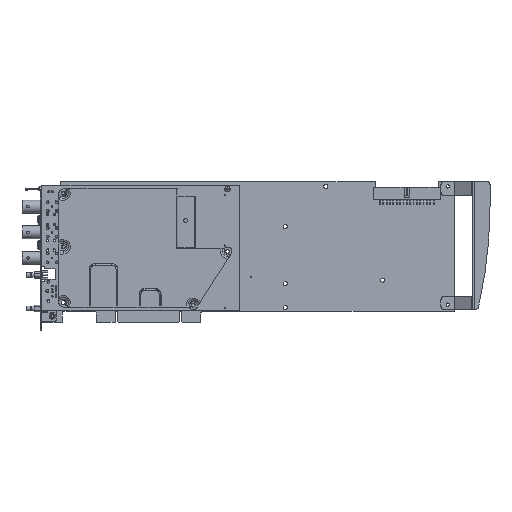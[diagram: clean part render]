
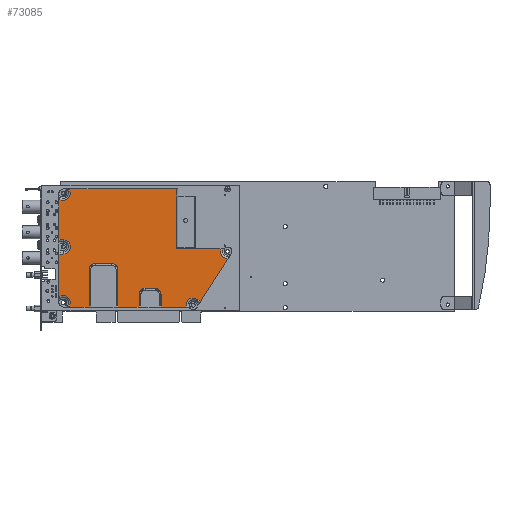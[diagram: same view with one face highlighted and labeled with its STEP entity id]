
A CAD part, top view. The second image highlights one B-rep face of the part: STEP entity #73085.
In plain terms, the highlighted planar face has unit normal (0, 0, 1).
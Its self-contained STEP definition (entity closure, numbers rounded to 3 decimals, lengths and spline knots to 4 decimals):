
#69874=CARTESIAN_POINT('',(-4.7346,-1.656,0.611));
#69881=CARTESIAN_POINT('',(-5.03,-1.357,0.611));
#69942=CARTESIAN_POINT('',(-4.9,-1.524,0.611));
#69943=DIRECTION('',(0.,0.,1.));
#69944=DIRECTION('',(0.782,-0.624,0.));
#69945=AXIS2_PLACEMENT_3D('',#69942,#69943,#69944);
#69947=DIRECTION('',(0.,-1.,0.));
#69948=VECTOR('',#69947,1.2701);
#69949=CARTESIAN_POINT('',(-5.03,-0.0868,0.611));
#69950=LINE('',#69949,#69948);
#69951=DIRECTION('',(0.996,0.087,0.));
#69952=VECTOR('',#69951,0.149);
#69953=CARTESIAN_POINT('',(-5.03,-0.0868,0.611));
#69954=LINE('',#69953,#69952);
#69955=CARTESIAN_POINT('',(-4.9,0.137,0.611));
#69956=DIRECTION('',(0.,0.,1.));
#69957=DIRECTION('',(0.087,-0.996,0.));
#69958=AXIS2_PLACEMENT_3D('',#69955,#69956,#69957);
#69960=DIRECTION('',(-0.996,0.087,0.));
#69961=VECTOR('',#69960,0.149);
#69962=CARTESIAN_POINT('',(-4.8816,0.3478,0.611));
#69963=LINE('',#69962,#69961);
#69964=DIRECTION('',(0.,-1.,0.));
#69965=VECTOR('',#69964,1.2071);
#69966=CARTESIAN_POINT('',(-5.03,1.568,0.611));
#69967=LINE('',#69966,#69965);
#69968=CARTESIAN_POINT('',(-4.9,1.735,0.611));
#69969=DIRECTION('',(0.,0.,1.));
#69970=DIRECTION('',(-0.614,-0.789,0.));
#69971=AXIS2_PLACEMENT_3D('',#69968,#69969,#69970);
#69973=DIRECTION('',(-1.,0.,0.));
#69974=VECTOR('',#69973,3.218);
#69975=CARTESIAN_POINT('',(-1.515,1.865,0.611));
#69976=LINE('',#69975,#69974);
#69977=DIRECTION('',(0.,1.,0.));
#69978=VECTOR('',#69977,0.04);
#69979=CARTESIAN_POINT('',(-1.515,0.083,0.611));
#69980=LINE('',#69979,#69978);
#69981=CARTESIAN_POINT('',(0.,0.,0.611));
#69982=DIRECTION('',(0.,0.,1.));
#69983=DIRECTION('',(-0.92,0.392,0.));
#69984=AXIS2_PLACEMENT_3D('',#69981,#69982,#69983);
#69986=DIRECTION('',(-0.54,-0.842,0.));
#69987=VECTOR('',#69986,1.5364);
#69988=CARTESIAN_POINT('',(0.0193,-0.2108,0.611));
#69989=LINE('',#69988,#69987);
#69990=DIRECTION('',(-0.766,0.643,0.));
#69991=VECTOR('',#69990,0.1034);
#69992=CARTESIAN_POINT('',(-0.8098,-1.5043,0.611));
#69993=LINE('',#69992,#69991);
#69994=CARTESIAN_POINT('',(-1.025,-1.6,0.611));
#69995=DIRECTION('',(0.,0.,1.));
#69996=DIRECTION('',(0.643,0.766,0.));
#69997=AXIS2_PLACEMENT_3D('',#69994,#69995,#69996);
#69999=DIRECTION('',(1.,0.,0.));
#70000=VECTOR('',#69999,0.2435);
#70001=CARTESIAN_POINT('',(-1.4726,-1.656,0.611));
#70002=LINE('',#70001,#70000);
#70003=DIRECTION('',(1.,0.,0.));
#70004=VECTOR('',#70003,0.5094);
#70005=CARTESIAN_POINT('',(-1.982,-1.656,0.611));
#70006=LINE('',#70005,#70004);
#70007=DIRECTION('',(0.,1.,0.));
#70008=VECTOR('',#70007,0.375);
#70009=CARTESIAN_POINT('',(-1.982,-1.656,0.611));
#70010=LINE('',#70009,#70008);
#70011=CARTESIAN_POINT('',(-2.161,-1.281,0.611));
#70012=DIRECTION('',(0.,0.,1.));
#70013=DIRECTION('',(1.,0.,0.));
#70014=AXIS2_PLACEMENT_3D('',#70011,#70012,#70013);
#70016=DIRECTION('',(1.,0.,0.));
#70017=VECTOR('',#70016,0.3);
#70018=CARTESIAN_POINT('',(-2.461,-1.102,0.611));
#70019=LINE('',#70018,#70017);
#70020=CARTESIAN_POINT('',(-2.461,-1.281,0.611));
#70021=DIRECTION('',(0.,0.,-1.));
#70022=DIRECTION('',(-1.,0.,0.));
#70023=AXIS2_PLACEMENT_3D('',#70020,#70021,#70022);
#70025=DIRECTION('',(0.,-1.,0.));
#70026=VECTOR('',#70025,0.375);
#70027=CARTESIAN_POINT('',(-2.64,-1.281,0.611));
#70028=LINE('',#70027,#70026);
#70029=DIRECTION('',(1.,0.,0.));
#70030=VECTOR('',#70029,0.632);
#70031=CARTESIAN_POINT('',(-3.272,-1.656,0.611));
#70032=LINE('',#70031,#70030);
#70033=DIRECTION('',(0.,1.,0.));
#70034=VECTOR('',#70033,1.125);
#70035=CARTESIAN_POINT('',(-3.272,-1.656,0.611));
#70036=LINE('',#70035,#70034);
#70037=CARTESIAN_POINT('',(-3.451,-0.531,0.611));
#70038=DIRECTION('',(0.,0.,-1.));
#70039=DIRECTION('',(0.,1.,0.));
#70040=AXIS2_PLACEMENT_3D('',#70037,#70038,#70039);
#70042=DIRECTION('',(1.,0.,0.));
#70043=VECTOR('',#70042,0.5);
#70044=CARTESIAN_POINT('',(-3.951,-0.352,0.611));
#70045=LINE('',#70044,#70043);
#70046=CARTESIAN_POINT('',(-3.951,-0.531,0.611));
#70047=DIRECTION('',(0.,0.,-1.));
#70048=DIRECTION('',(-1.,0.,0.));
#70049=AXIS2_PLACEMENT_3D('',#70046,#70047,#70048);
#70051=DIRECTION('',(0.,1.,0.));
#70052=VECTOR('',#70051,1.125);
#70053=CARTESIAN_POINT('',(-4.13,-1.656,0.611));
#70054=LINE('',#70053,#70052);
#70055=DIRECTION('',(1.,0.,0.));
#70056=VECTOR('',#70055,0.6046);
#70057=CARTESIAN_POINT('',(-4.7346,-1.656,0.611));
#70058=LINE('',#70057,#70056);
#70539=CARTESIAN_POINT('',(-5.03,1.568,0.611));
#70546=CARTESIAN_POINT('',(-4.733,1.865,0.611));
#70672=DIRECTION('',(0.,-1.,0.));
#70673=VECTOR('',#70672,1.742);
#70674=CARTESIAN_POINT('',(-1.515,1.865,0.611));
#70675=LINE('',#70674,#70673);
#70897=DIRECTION('',(-1.,0.,0.));
#70898=VECTOR('',#70897,1.3203);
#70899=CARTESIAN_POINT('',(-0.1947,0.083,0.611));
#70900=LINE('',#70899,#70898);
#70962=CARTESIAN_POINT('',(0.0193,-0.2108,0.611));
#71006=CARTESIAN_POINT('',(-0.1947,0.083,0.611));
#71345=CARTESIAN_POINT('',(-1.2291,-1.656,0.611));
#72190=CARTESIAN_POINT('',(-1.515,0.083,0.611));
#72191=CARTESIAN_POINT('',(-1.515,0.123,0.611));
#72192=VERTEX_POINT('',#72190);
#72193=VERTEX_POINT('',#72191);
#72206=CARTESIAN_POINT('',(-1.515,1.865,0.611));
#72207=VERTEX_POINT('',#72206);
#72258=CARTESIAN_POINT('',(-1.4726,-1.656,0.611));
#72260=VERTEX_POINT('',#72258);
#72302=CARTESIAN_POINT('',(-5.03,-0.0868,0.611));
#72303=CARTESIAN_POINT('',(-4.8816,-0.0738,0.611));
#72304=VERTEX_POINT('',#72302);
#72305=VERTEX_POINT('',#72303);
#72306=CARTESIAN_POINT('',(-4.8816,0.3478,0.611));
#72307=VERTEX_POINT('',#72306);
#72308=CARTESIAN_POINT('',(-5.03,0.3608,0.611));
#72309=VERTEX_POINT('',#72308);
#72400=CARTESIAN_POINT('',(-0.8098,-1.5043,0.611));
#72401=CARTESIAN_POINT('',(-0.889,-1.4379,0.611));
#72402=VERTEX_POINT('',#72400);
#72403=VERTEX_POINT('',#72401);
#72478=CARTESIAN_POINT('',(-3.272,-1.656,0.611));
#72479=CARTESIAN_POINT('',(-2.64,-1.656,0.611));
#72480=VERTEX_POINT('',#72478);
#72481=VERTEX_POINT('',#72479);
#72500=CARTESIAN_POINT('',(-4.13,-1.656,0.611));
#72501=CARTESIAN_POINT('',(-4.13,-0.531,0.611));
#72502=VERTEX_POINT('',#72500);
#72503=VERTEX_POINT('',#72501);
#72504=CARTESIAN_POINT('',(-3.951,-0.352,0.611));
#72505=VERTEX_POINT('',#72504);
#72506=CARTESIAN_POINT('',(-3.451,-0.352,0.611));
#72507=VERTEX_POINT('',#72506);
#72508=CARTESIAN_POINT('',(-3.272,-0.531,0.611));
#72509=VERTEX_POINT('',#72508);
#72520=CARTESIAN_POINT('',(-2.64,-1.281,0.611));
#72521=VERTEX_POINT('',#72520);
#72558=CARTESIAN_POINT('',(-2.461,-1.102,0.611));
#72559=VERTEX_POINT('',#72558);
#72560=CARTESIAN_POINT('',(-2.161,-1.102,0.611));
#72561=VERTEX_POINT('',#72560);
#72562=CARTESIAN_POINT('',(-1.982,-1.281,0.611));
#72563=VERTEX_POINT('',#72562);
#72574=CARTESIAN_POINT('',(-1.982,-1.656,0.611));
#72575=VERTEX_POINT('',#72574);
#72581=VERTEX_POINT('',#70539);
#72582=VERTEX_POINT('',#70546);
#72597=VERTEX_POINT('',#69874);
#72598=VERTEX_POINT('',#69881);
#72612=VERTEX_POINT('',#70962);
#72615=VERTEX_POINT('',#71006);
#72633=VERTEX_POINT('',#71345);
#73023=CARTESIAN_POINT('',(0.363,1.973,0.611));
#73024=DIRECTION('',(0.,0.,1.));
#73025=DIRECTION('',(1.,0.,0.));
#73026=AXIS2_PLACEMENT_3D('',#73023,#73024,#73025);
#73027=PLANE('',#73026);
#73028=ORIENTED_EDGE('',*,*,#72920,.T.);
#73029=ORIENTED_EDGE('',*,*,#72872,.F.);
#73031=ORIENTED_EDGE('',*,*,#73030,.T.);
#73033=ORIENTED_EDGE('',*,*,#73032,.T.);
#73035=ORIENTED_EDGE('',*,*,#73034,.T.);
#73037=ORIENTED_EDGE('',*,*,#73036,.F.);
#73039=ORIENTED_EDGE('',*,*,#73038,.T.);
#73041=ORIENTED_EDGE('',*,*,#73040,.F.);
#73043=ORIENTED_EDGE('',*,*,#73042,.T.);
#73045=ORIENTED_EDGE('',*,*,#73044,.F.);
#73047=ORIENTED_EDGE('',*,*,#73046,.F.);
#73049=ORIENTED_EDGE('',*,*,#73048,.T.);
#73051=ORIENTED_EDGE('',*,*,#73050,.T.);
#73053=ORIENTED_EDGE('',*,*,#73052,.T.);
#73055=ORIENTED_EDGE('',*,*,#73054,.T.);
#73057=ORIENTED_EDGE('',*,*,#73056,.F.);
#73059=ORIENTED_EDGE('',*,*,#73058,.F.);
#73061=ORIENTED_EDGE('',*,*,#73060,.T.);
#73063=ORIENTED_EDGE('',*,*,#73062,.T.);
#73065=ORIENTED_EDGE('',*,*,#73064,.F.);
#73067=ORIENTED_EDGE('',*,*,#73066,.F.);
#73069=ORIENTED_EDGE('',*,*,#73068,.T.);
#73071=ORIENTED_EDGE('',*,*,#73070,.F.);
#73073=ORIENTED_EDGE('',*,*,#73072,.T.);
#73075=ORIENTED_EDGE('',*,*,#73074,.F.);
#73077=ORIENTED_EDGE('',*,*,#73076,.F.);
#73079=ORIENTED_EDGE('',*,*,#73078,.F.);
#73081=ORIENTED_EDGE('',*,*,#73080,.F.);
#73082=ORIENTED_EDGE('',*,*,#72765,.F.);
#73083=EDGE_LOOP('',(#73028,#73029,#73031,#73033,#73035,#73037,#73039,#73041,
#73043,#73045,#73047,#73049,#73051,#73053,#73055,#73057,#73059,#73061,#73063,
#73065,#73067,#73069,#73071,#73073,#73075,#73077,#73079,#73081,#73082));
#73084=FACE_OUTER_BOUND('',#73083,.F.);
#73085=ADVANCED_FACE('',(#73084),#73027,.T.);
#69946=CIRCLE('',#69945,0.2117);
#69959=CIRCLE('',#69958,0.2117);
#69972=CIRCLE('',#69971,0.2117);
#69985=CIRCLE('',#69984,0.2117);
#69998=CIRCLE('',#69997,0.2117);
#70015=CIRCLE('',#70014,0.179);
#70024=CIRCLE('',#70023,0.179);
#70041=CIRCLE('',#70040,0.179);
#70050=CIRCLE('',#70049,0.179);
#72765=EDGE_CURVE('',#72597,#72502,#70058,.T.);
#72872=EDGE_CURVE('',#72304,#72598,#69950,.T.);
#72920=EDGE_CURVE('',#72597,#72598,#69946,.T.);
#73030=EDGE_CURVE('',#72304,#72305,#69954,.T.);
#73032=EDGE_CURVE('',#72305,#72307,#69959,.T.);
#73034=EDGE_CURVE('',#72307,#72309,#69963,.T.);
#73036=EDGE_CURVE('',#72581,#72309,#69967,.T.);
#73038=EDGE_CURVE('',#72581,#72582,#69972,.T.);
#73040=EDGE_CURVE('',#72207,#72582,#69976,.T.);
#73042=EDGE_CURVE('',#72207,#72193,#70675,.T.);
#73044=EDGE_CURVE('',#72192,#72193,#69980,.T.);
#73046=EDGE_CURVE('',#72615,#72192,#70900,.T.);
#73048=EDGE_CURVE('',#72615,#72612,#69985,.T.);
#73050=EDGE_CURVE('',#72612,#72402,#69989,.T.);
#73052=EDGE_CURVE('',#72402,#72403,#69993,.T.);
#73054=EDGE_CURVE('',#72403,#72633,#69998,.T.);
#73056=EDGE_CURVE('',#72260,#72633,#70002,.T.);
#73058=EDGE_CURVE('',#72575,#72260,#70006,.T.);
#73060=EDGE_CURVE('',#72575,#72563,#70010,.T.);
#73062=EDGE_CURVE('',#72563,#72561,#70015,.T.);
#73064=EDGE_CURVE('',#72559,#72561,#70019,.T.);
#73066=EDGE_CURVE('',#72521,#72559,#70024,.T.);
#73068=EDGE_CURVE('',#72521,#72481,#70028,.T.);
#73070=EDGE_CURVE('',#72480,#72481,#70032,.T.);
#73072=EDGE_CURVE('',#72480,#72509,#70036,.T.);
#73074=EDGE_CURVE('',#72507,#72509,#70041,.T.);
#73076=EDGE_CURVE('',#72505,#72507,#70045,.T.);
#73078=EDGE_CURVE('',#72503,#72505,#70050,.T.);
#73080=EDGE_CURVE('',#72502,#72503,#70054,.T.);
